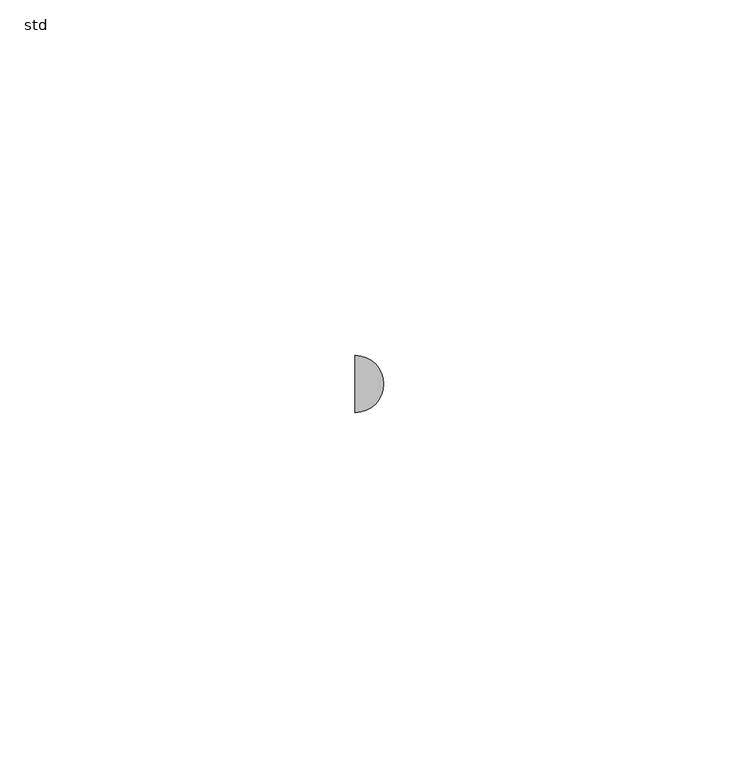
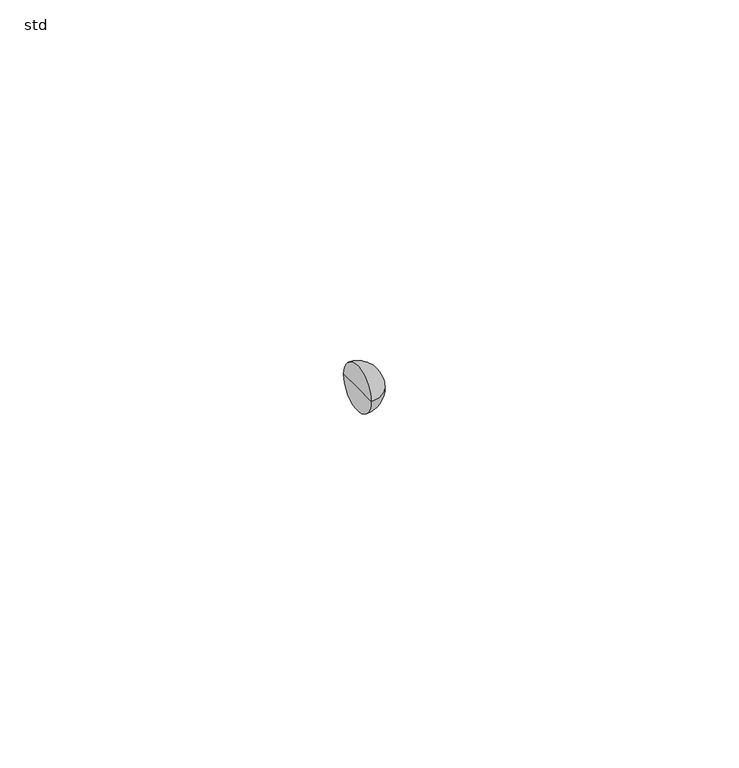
"""IFC4 building model written with IfcOpenShell, lengths in millimetres: pipe fitting geometry, PIF_ST_UN_GM-X multibranch_ACO : std."""

from ifc_helpers import new_model, si_unit, point, frame, origin, place, context, project, spatial, circle_curve, ellipse_curve, trimmed, source, transform, mapped, element, save
from ifc_brep_helpers import plane_surface, revolved_surface, advanced_brep


def std_65e16e6f(model_context):
    return source(origin(), model_context, "Body", "AdvancedBrep", [
        advanced_brep(
        [(-65.0, 0.0, 0.0), (-65.0, 4.0095617, 0.0), (-65.0, -4.0095617, 0.0), (-60.9904383, 0.0, 0.0)],
        [
            (0, 1),
            (1, 2, circle_curve(frame((-65.0, 0.0, 0.0), z_axis=(-1.0, 0.0, 0.0), x_axis=(0.0, 1.0, 0.0)), 4.0095617)),
            (2, 0),
            (2, 1, circle_curve(frame((-65.0, 0.0, 0.0), z_axis=(-1.0, 0.0, 0.0), x_axis=(0.0, 1.0, 0.0)), 4.0095617)),
            (1, 3, circle_curve(frame((-65.0, 0.0, 0.0), z_axis=(0.0, 0.0, -1.0), x_axis=(1.0, 0.0, 0.0)), 4.0095617)),
            (3, 2, circle_curve(frame((-65.0, 0.0, 0.0), z_axis=(0.0, 0.0, -1.0), x_axis=(1.0, 0.0, 0.0)), 4.0095617)),
        ],
        [
            plane_surface(frame((-65.0, 0.0, 0.0), z_axis=(-1.0, 0.0, 0.0), x_axis=(0.0, 1.0, 0.0))),
            revolved_surface(trimmed(ellipse_curve(frame((-65.0, 0.0, 0.0), z_axis=(0.0, 0.0, 1.0), x_axis=(1.0, 0.0, 0.0)), 4.0095617, 4.0095617), [point((-60.9904383, 0.0, 0.0))], [point((-65.0, 4.0095617, 0.0))], True, "CARTESIAN"), (-65.0, 0.0, 0.0), (-1.0, 0.0, 0.0)),
        ],
        [
            (0, [[1, 2, 3]]),
            (0, [[-3, 4, -1]]),
            (1, [[-2, 5, 6]]),
            (1, [[-4, -6, -5]]),
        ],
    ),
    ])


if __name__ == "__main__":
    model = new_model("IFC4")
    model_context = context("Model", 3, world=origin())
    ifc_project = project(units=[si_unit("LENGTHUNIT", "METRE", prefix="MILLI")], contexts=[model_context])
    site = spatial("IfcSite", under=ifc_project)
    building = spatial("IfcBuilding", under=site)
    placement = place(None, origin())
    std_shape = std_65e16e6f(model_context)
    element("IfcPipeFitting", 1, ObjectType="PIF_ST_UN_GM-X multibranch_ACO : std", at=placement, inside=building, context=model_context, shape_type="MappedRepresentation", body=[
        mapped(std_shape, transform((0.0, 0.0, 0.0), x_axis=(1.0, 0.0, 0.0), y_axis=(0.0, 1.0, 0.0), z_axis=(0.0, 0.0, 1.0))),
    ])
    save(model, "model.ifc")
